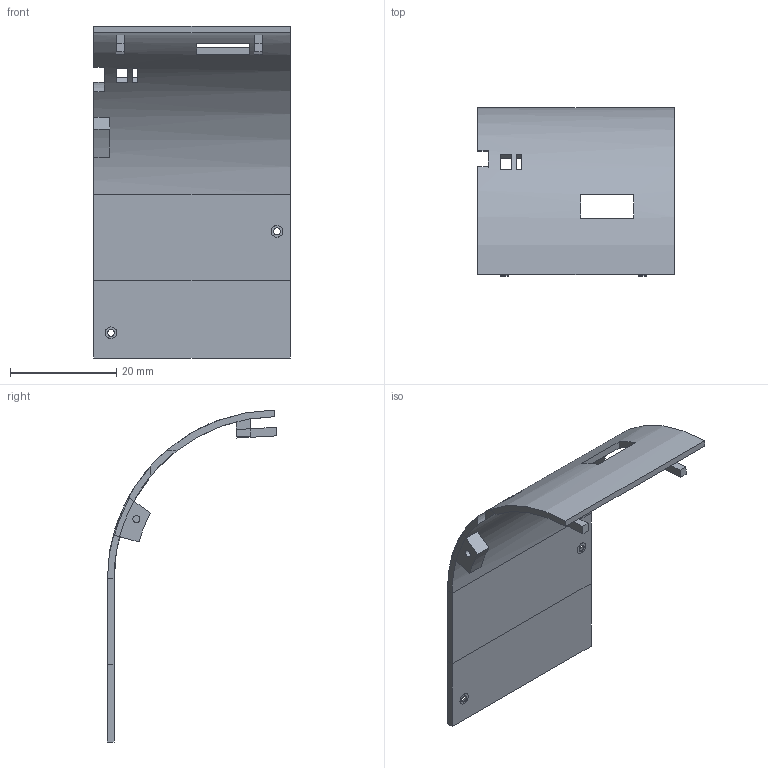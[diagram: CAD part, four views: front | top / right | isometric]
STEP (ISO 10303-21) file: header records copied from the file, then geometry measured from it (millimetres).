
FILE_DESCRIPTION(('FreeCAD Model'),'2;1');
FILE_NAME('/Users/alberto/Desktop/Dtto v2.0.1 STEP/001-1.step', '2017-05-29T11:38:13',('Author'),(''), 'Open CASCADE STEP processor 6.8','FreeCAD','Unknown');
FILE_SCHEMA(('AUTOMOTIVE_DESIGN_CC2 { 1 2 10303 214 -1 1 5 4 }'));
Length unit declared in the file: millimetre
Products named in the file (2): ASSEMBLY; Cut245
Assembly tree (1 placements, depth 2):
  ASSEMBLY
    Cut245
Bounding box: 37 x 31.83 x 62.5 mm (x, y, z)
Volume: 3685.1 mm3; surface area: 6297 mm2
Topology: 1 solids, 1 shells, 70 faces, 171 edges, 108 vertices
Faces by surface type: plane 60, cylinder 8, cone 2
Full cylindrical faces by diameter (mm): 1.3 x3
Entity records: 4262 total; most frequent: CARTESIAN_POINT 757, DIRECTION 642, LINE 365, VECTOR 365, ORIENTED_EDGE 342, PCURVE 342, DEFINITIONAL_REPRESENTATION 342, EDGE_CURVE 171
